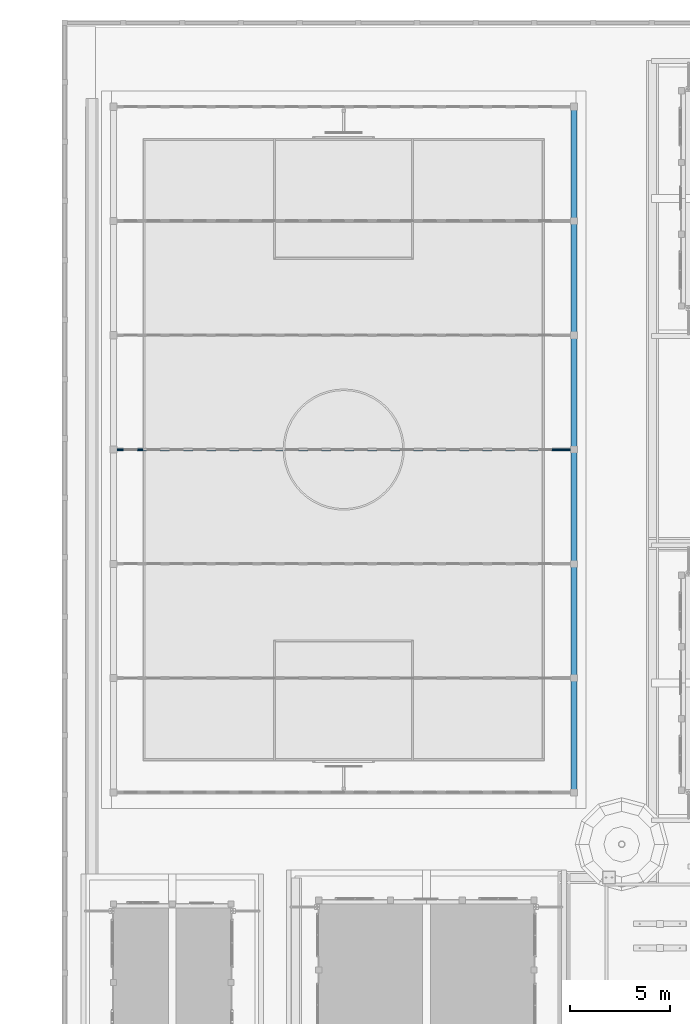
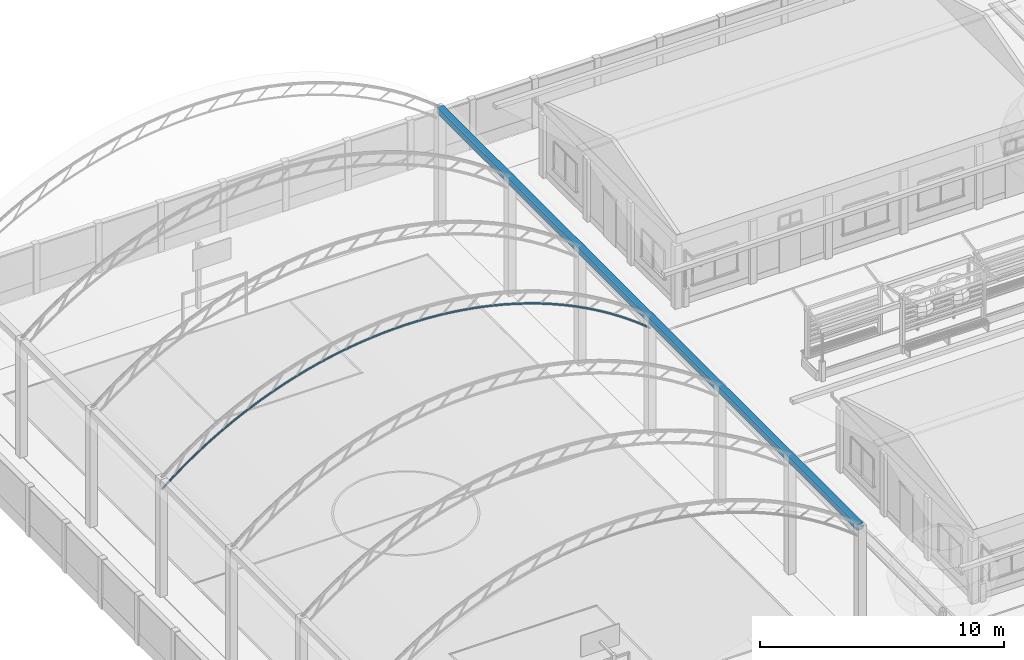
# One storey, part 26 of 177: 2 beams.
"""IFC4 building model written with IfcOpenShell, lengths in metres."""

import ifcopenshell
import ifcopenshell.guid

model = None  # the IFC model being written
_history = None  # IfcOwnerHistory: only IFC2X3 demands one
_inside = {}  # id of a spatial element -> (the spatial element, [elements in it])
_under = {}  # id of a project, library or spatial element -> (it, [spatial elements below it])
_declared = {}  # id of a project -> (the project, [libraries it declares])
_typed = {}  # id of a type object -> (the type object, [elements of that type])
_made_of = {}  # id of a material, layer set ... -> (it, [elements and type objects made of it])


def new_model(schema):
    """Start an empty IFC model of exactly this schema.

    Asked for "IFC4X3", IfcOpenShell would pick the latest addendum, in which some entities
    have other attributes; the version numbers below select the first issue.
    IFC2X3 requires an IfcOwnerHistory on every rooted entity: one is made here for all.
    """
    global model, _history
    if schema == "IFC4X3":
        model = ifcopenshell.file(schema_version=(4, 3, 0, 0))
    else:
        model = ifcopenshell.file(schema=schema)
    _inside.clear()
    _under.clear()
    _declared.clear()
    _typed.clear()
    _made_of.clear()
    _history = None
    if model.schema == "IFC2X3":
        org = make("IfcOrganization", Name="unknown")
        user = make(
            "IfcPersonAndOrganization",
            ThePerson=make("IfcPerson", FamilyName="unknown"),
            TheOrganization=org,
        )
        app = make(
            "IfcApplication",
            ApplicationDeveloper=org,
            Version="unknown",
            ApplicationFullName="unknown",
            ApplicationIdentifier="unknown",
        )
        _history = make(
            "IfcOwnerHistory",
            OwningUser=user,
            OwningApplication=app,
            ChangeAction="ADDED",
            CreationDate=0,
        )
    return model


def make(cls, **values):
    """One entity of the class cls with the attributes given. An attribute that is None is left unset."""
    return model.create_entity(
        cls, **{name: value for name, value in values.items() if value is not None}
    )


def rooted(cls, **values):
    """An entity with a GlobalId (a new one), such as an element, a storey or a relation."""
    return make(cls, GlobalId=ifcopenshell.guid.new(), OwnerHistory=_history, **values)


def si_unit(unit_type, name, prefix=None):
    """IfcSIUnit, for example si_unit("LENGTHUNIT", "METRE", prefix="MILLI")."""
    return make("IfcSIUnit", UnitType=unit_type, Prefix=prefix, Name=name)


def assignment(units):
    """IfcUnitAssignment: the units of a project."""
    return None if units is None else make("IfcUnitAssignment", Units=units)


def point(xyz):
    """IfcCartesianPoint."""
    return None if xyz is None else make("IfcCartesianPoint", Coordinates=xyz)


def direction(xyz):
    """IfcDirection."""
    return None if xyz is None else make("IfcDirection", DirectionRatios=xyz)


def frame(location, z_axis=None, x_axis=None):
    """IfcAxis2Placement3D, a coordinate frame: its origin and axes. An axis left out is left unset."""
    return make(
        "IfcAxis2Placement3D",
        Location=point(location),
        Axis=direction(z_axis),
        RefDirection=direction(x_axis),
    )


def origin():
    """The frame at (0, 0, 0) with its axes left unset."""
    return frame((0.0, 0.0, 0.0))


def origin_with_axes():
    """The frame at (0, 0, 0) with the z axis (0, 0, 1) and the x axis (1, 0, 0) written out."""
    return frame((0.0, 0.0, 0.0), z_axis=(0.0, 0.0, 1.0), x_axis=(1.0, 0.0, 0.0))


def place(relative_to, where):
    """IfcLocalPlacement: puts the frame where relative to a parent placement (None: the world)."""
    return make(
        "IfcLocalPlacement", PlacementRelTo=relative_to, RelativePlacement=where
    )


def context(
    kind, dimensions, precision=None, world=None, true_north=None, identifier=None
):
    """IfcGeometricRepresentationContext, for example the 3D "Model" context."""
    return make(
        "IfcGeometricRepresentationContext",
        ContextIdentifier=identifier,
        ContextType=kind,
        CoordinateSpaceDimension=dimensions,
        Precision=precision,
        WorldCoordinateSystem=world,
        TrueNorth=true_north,
    )


def subcontext(parent, identifier, kind, view, scale=None):
    """IfcGeometricRepresentationSubContext, for example "Body" below "Model"."""
    return make(
        "IfcGeometricRepresentationSubContext",
        ContextIdentifier=identifier,
        ContextType=kind,
        ParentContext=parent,
        TargetScale=scale,
        TargetView=view,
    )


def project(units=None, contexts=None):
    """IfcProject with its units and contexts."""
    return rooted(
        "IfcProject",
        Name="project",
        RepresentationContexts=contexts,
        UnitsInContext=assignment(units),
    )


def spatial(cls, under=None, at=None, **own):
    """A site, building, storey or space (cls), placed at a placement, below another one or the project."""
    s = rooted(cls, ObjectPlacement=at, **own)
    if under is not None:
        _under.setdefault(under.id(), (under, []))[1].append(s)
    return s


def point_list(points):
    """IfcCartesianPointList2D or 3D."""
    cls = (
        "IfcCartesianPointList2D" if len(points[0]) == 2 else "IfcCartesianPointList3D"
    )
    return make(cls, CoordList=points)


def triangles(points, corners, closed=None, point_numbers=None):
    """IfcTriangulatedFaceSet: each triangle names its three corners, points numbered from 1."""
    return make(
        "IfcTriangulatedFaceSet",
        Coordinates=point_list(points),
        Closed=closed,
        CoordIndex=corners,
        PnIndex=point_numbers,
    )


def shape(context_of_items, identifier, shape_type, items):
    """IfcShapeRepresentation: the items that make up one representation, for example the "Body"."""
    return make(
        "IfcShapeRepresentation",
        ContextOfItems=context_of_items,
        RepresentationIdentifier=identifier,
        RepresentationType=shape_type,
        Items=items,
    )


def made_of(thing, what):
    """Note that an element or type object is made of a material, layer set ...; save() writes the relation."""
    if what is not None:
        _made_of.setdefault(what.id(), (what, []))[1].append(thing)
    return thing


def element(
    cls,
    number,
    at=None,
    inside=None,
    cuts=None,
    type_object=None,
    material=None,
    context=None,
    identifier="Body",
    shape_type=None,
    held_by="IfcProductDefinitionShape",
    body=None,
    shapes=None,
    **own,
):
    """One element of the class cls, such as IfcWall. Its Tag is "e" and its number.

    at: its placement. inside: the storey or other place that contains it. cuts: it is an
    opening in that element (IfcRelVoidsElement). A single representation is given by context,
    identifier, shape_type and body (its items); several are given by shapes. held_by: the class
    of the entity that holds the representations. save() writes the other relations.
    """
    e = rooted(cls, Tag="e%d" % number, ObjectPlacement=at, **own)
    if body is not None:
        shapes = [shape(context, identifier, shape_type, body)]
    if shapes is not None:
        e.Representation = make(held_by, Representations=shapes)
    if inside is not None:
        _inside.setdefault(inside.id(), (inside, []))[1].append(e)
    if cuts is not None:
        rooted(
            "IfcRelVoidsElement", RelatingBuildingElement=cuts, RelatedOpeningElement=e
        )
    if type_object is not None:
        _typed.setdefault(type_object.id(), (type_object, []))[1].append(e)
    return made_of(e, material)


def aggregate(whole, parts):
    """IfcRelAggregates: a whole, such as a stair, and the parts it consists of."""
    return rooted("IfcRelAggregates", RelatingObject=whole, RelatedObjects=parts)


def save(model, path):
    """Write the relations noted so far, then the file.

    IfcRelAggregates (storeys below a building ...), IfcRelContainedInSpatialStructure (elements
    in a storey), IfcRelDefinesByType, IfcRelAssociatesMaterial and IfcRelDeclares: one each for
    every whole, place, type object, material and project.
    """
    for whole, parts in _under.values():
        aggregate(whole, parts)
    for where, things in _inside.values():
        rooted(
            "IfcRelContainedInSpatialStructure",
            RelatedElements=things,
            RelatingStructure=where,
        )
    for kind, things in _typed.values():
        rooted("IfcRelDefinesByType", RelatedObjects=things, RelatingType=kind)
    for what, things in _made_of.values():
        rooted("IfcRelAssociatesMaterial", RelatedObjects=things, RelatingMaterial=what)
    for by, libraries in _declared.values():
        rooted("IfcRelDeclares", RelatingContext=by, RelatedDefinitions=libraries)
    model.write(path)


model = new_model("IFC4")

# Units and contexts
model_context = context("Model", 3, precision=1e-05, world=origin_with_axes())
body_context = subcontext(model_context, "Body", "Model", "MODEL_VIEW")
ifc_project = project(units=[si_unit("LENGTHUNIT", "METRE"), si_unit("AREAUNIT", "SQUARE_METRE"), si_unit("VOLUMEUNIT", "CUBIC_METRE"), si_unit("PLANEANGLEUNIT", "RADIAN")], contexts=[model_context])

# Site, building, storey
site_placement = place(None, origin_with_axes())
site = spatial("IfcSite", under=ifc_project, at=site_placement, Name="Predio Los Mangos - Morales, San Martín", CompositionType="ELEMENT")
building_placement = place(site_placement, origin())
building = spatial("IfcBuilding", under=site, at=building_placement, Name="Hogar de Refugio Temporal", CompositionType="ELEMENT")
storey_placement = place(building_placement, origin())
storey = spatial("IfcBuildingStorey", under=building, at=storey_placement, Name="NIVEL 1 (NPT +0.00)", CompositionType="ELEMENT", Elevation=0.0)

# Beams
beam_1_placement = place(storey_placement, origin())
element("IfcBeam", 1, at=beam_1_placement, inside=storey, Name="arco", ObjectType="Viga", PredefinedType="BEAM", context=body_context, shape_type="Tessellation", body=[
    triangles([(3.4843, 109.8433, 5.3695), (3.4729, 109.825, 5.3838), (3.4687, 109.8, 5.389), (3.4729, 109.775, 5.3838), (3.4843, 109.7567, 5.3695), (3.5, 109.75, 5.35), (3.5157, 109.7567, 5.3305), (3.5271, 109.775, 5.3162), (3.5313, 109.8, 5.311), (3.5271, 109.825, 5.3162), (3.5157, 109.8433, 5.3305), (3.5, 109.85, 5.35), (4.0622, 109.8433, 5.8339), (4.0511, 109.825, 5.8484), (4.047, 109.8, 5.8537), (4.0511, 109.775, 5.8484), (4.0622, 109.7567, 5.8339), (4.0775, 109.75, 5.8141), (4.0928, 109.7567, 5.7943), (4.1039, 109.775, 5.7798), (4.108, 109.8, 5.7745), (4.1039, 109.825, 5.7798), (4.0928, 109.8433, 5.7943), (4.0775, 109.85, 5.8141), (4.6405, 109.8433, 6.2612), (4.63, 109.825, 6.2761), (4.6261, 109.8, 6.2816), (4.63, 109.775, 6.2761), (4.6405, 109.7567, 6.2612), (4.655, 109.75, 6.2408), (4.6695, 109.7567, 6.2204), (4.68, 109.775, 6.2055), (4.6839, 109.8, 6.2), (4.68, 109.825, 6.2055), (4.6695, 109.8433, 6.2204), (4.655, 109.85, 6.2408), (5.2188, 109.8433, 6.6543), (5.2088, 109.825, 6.6696), (5.2052, 109.8, 6.6752), (5.2088, 109.775, 6.6696), (5.2188, 109.7567, 6.6543), (5.2325, 109.75, 6.6333), (5.2462, 109.7567, 6.6124), (5.2562, 109.775, 6.5971), (5.2598, 109.8, 6.5915), (5.2562, 109.825, 6.5971), (5.2462, 109.8433, 6.6124), (5.2325, 109.85, 6.6333), (5.7971, 109.8433, 7.0157), (5.7877, 109.825, 7.0314), (5.7843, 109.8, 7.0372), (5.7877, 109.775, 7.0314), (5.7971, 109.7567, 7.0157), (5.81, 109.75, 6.9943), (5.8229, 109.7567, 6.9729), (5.8323, 109.775, 6.9572), (5.8357, 109.8, 6.9514), (5.8323, 109.825, 6.9572), (5.8229, 109.8433, 6.9729), (5.81, 109.85, 6.9943), (6.3755, 109.8433, 7.3478), (6.3666, 109.825, 7.3638), (6.3634, 109.8, 7.3697), (6.3666, 109.775, 7.3638), (6.3755, 109.7567, 7.3478), (6.3875, 109.75, 7.3259), (6.3995, 109.7567, 7.304), (6.4084, 109.775, 7.2879), (6.4116, 109.8, 7.282), (6.4084, 109.825, 7.2879), (6.3995, 109.8433, 7.304), (6.3875, 109.85, 7.3259), (6.9538, 109.8433, 7.6522), (6.9455, 109.825, 7.6685), (6.9425, 109.8, 7.6745), (6.9455, 109.775, 7.6685), (6.9538, 109.7567, 7.6522), (6.965, 109.75, 7.6298), (6.9762, 109.7567, 7.6075), (6.9845, 109.775, 7.5912), (6.9875, 109.8, 7.5852), (6.9845, 109.825, 7.5912), (6.9762, 109.8433, 7.6075), (6.965, 109.85, 7.6298), (7.5321, 109.8433, 7.9305), (7.5244, 109.825, 7.9471), (7.5216, 109.8, 7.9532), (7.5244, 109.775, 7.9471), (7.5321, 109.7567, 7.9305), (7.5425, 109.75, 7.9077), (7.5529, 109.7567, 7.885), (7.5606, 109.775, 7.8684), (7.5634, 109.8, 7.8623), (7.5606, 109.825, 7.8684), (7.5529, 109.8433, 7.885), (7.5425, 109.85, 7.9077), (8.1104, 109.8433, 8.184), (8.1033, 109.825, 8.2009), (8.1007, 109.8, 8.2071), (8.1033, 109.775, 8.2009), (8.1104, 109.7567, 8.184), (8.12, 109.75, 8.1609), (8.1296, 109.7567, 8.1379), (8.1367, 109.775, 8.121), (8.1393, 109.8, 8.1148), (8.1367, 109.825, 8.121), (8.1296, 109.8433, 8.1379), (8.12, 109.85, 8.1609), (8.6887, 109.8433, 8.4139), (8.6822, 109.825, 8.431), (8.6798, 109.8, 8.4373), (8.6822, 109.775, 8.431), (8.6887, 109.7567, 8.4139), (8.6975, 109.75, 8.3905), (8.7063, 109.7567, 8.3671), (8.7128, 109.775, 8.35), (8.7152, 109.8, 8.3437), (8.7128, 109.825, 8.35), (8.7063, 109.8433, 8.3671), (8.6975, 109.85, 8.3905), (9.267, 109.8433, 8.6211), (9.2611, 109.825, 8.6384), (9.2589, 109.8, 8.6447), (9.2611, 109.775, 8.6384), (9.267, 109.7567, 8.6211), (9.275, 109.75, 8.5974), (9.283, 109.7567, 8.5737), (9.2889, 109.775, 8.5564), (9.2911, 109.8, 8.55), (9.2889, 109.825, 8.5564), (9.283, 109.8433, 8.5737), (9.275, 109.85, 8.5974), (9.8453, 109.8433, 8.8064), (9.84, 109.825, 8.8239), (9.838, 109.8, 8.8303), (9.84, 109.775, 8.8239), (9.8453, 109.7567, 8.8064), (9.8525, 109.75, 8.7824), (9.8597, 109.7567, 8.7585), (9.865, 109.775, 8.741), (9.867, 109.8, 8.7346), (9.865, 109.825, 8.741), (9.8597, 109.8433, 8.7585), (9.8525, 109.85, 8.7824), (10.4236, 109.8433, 8.9705), (10.4189, 109.825, 8.9882), (10.4172, 109.8, 8.9947), (10.4189, 109.775, 8.9882), (10.4236, 109.7567, 8.9705), (10.43, 109.75, 8.9463), (10.4364, 109.7567, 8.9222), (10.4411, 109.775, 8.9045), (10.4429, 109.8, 8.898), (10.4411, 109.825, 8.9045), (10.4364, 109.8433, 8.9222), (10.43, 109.85, 8.9463), (11.0019, 109.8433, 9.1141), (10.9978, 109.825, 9.1319), (10.9963, 109.8, 9.1384), (10.9978, 109.775, 9.1319), (11.0019, 109.7567, 9.1141), (11.0075, 109.75, 9.0897), (11.0131, 109.7567, 9.0653), (11.0172, 109.775, 9.0475), (11.0187, 109.8, 9.041), (11.0172, 109.825, 9.0475), (11.0131, 109.8433, 9.0653), (11.0075, 109.85, 9.0897), (11.5802, 109.8433, 9.2375), (11.5767, 109.825, 9.2555), (11.5754, 109.8, 9.2621), (11.5767, 109.775, 9.2555), (11.5802, 109.7567, 9.2375), (11.585, 109.75, 9.213), (11.5898, 109.7567, 9.1885), (11.5933, 109.775, 9.1705), (11.5946, 109.8, 9.1639), (11.5933, 109.825, 9.1705), (11.5898, 109.8433, 9.1885), (11.585, 109.85, 9.213), (12.1585, 109.8433, 9.3413), (12.1555, 109.825, 9.3594), (12.1545, 109.8, 9.366), (12.1555, 109.775, 9.3594), (12.1585, 109.7567, 9.3413), (12.1625, 109.75, 9.3166), (12.1665, 109.7567, 9.292), (12.1695, 109.775, 9.2739), (12.1705, 109.8, 9.2673), (12.1695, 109.825, 9.2739), (12.1665, 109.8433, 9.292), (12.1625, 109.85, 9.3166), (12.7368, 109.8433, 9.4258), (12.7344, 109.825, 9.4439), (12.7336, 109.8, 9.4506), (12.7344, 109.775, 9.4439), (12.7368, 109.7567, 9.4258), (12.74, 109.75, 9.401), (12.7432, 109.7567, 9.3762), (12.7456, 109.775, 9.3581), (12.7464, 109.8, 9.3514), (12.7456, 109.825, 9.3581), (12.7432, 109.8433, 9.3762), (12.74, 109.85, 9.401), (13.3151, 109.8433, 9.4912), (13.3133, 109.825, 9.5094), (13.3127, 109.8, 9.5161), (13.3133, 109.775, 9.5094), (13.3151, 109.7567, 9.4912), (13.3175, 109.75, 9.4663), (13.3199, 109.7567, 9.4415), (13.3217, 109.775, 9.4232), (13.3223, 109.8, 9.4166), (13.3217, 109.825, 9.4232), (13.3199, 109.8433, 9.4415), (13.3175, 109.85, 9.4663), (13.8934, 109.8433, 9.5378), (13.8922, 109.825, 9.5561), (13.8918, 109.8, 9.5628), (13.8922, 109.775, 9.5561), (13.8934, 109.7567, 9.5378), (13.895, 109.75, 9.5129), (13.8966, 109.7567, 9.4879), (13.8978, 109.775, 9.4697), (13.8982, 109.8, 9.463), (13.8978, 109.825, 9.4697), (13.8966, 109.8433, 9.4879), (13.895, 109.85, 9.5129), (14.4717, 109.8433, 9.5657), (14.4711, 109.825, 9.584), (14.4709, 109.8, 9.5907), (14.4711, 109.775, 9.584), (14.4717, 109.7567, 9.5657), (14.4725, 109.75, 9.5407), (14.4733, 109.7567, 9.5157), (14.4739, 109.775, 9.4974), (14.4741, 109.8, 9.4907), (14.4739, 109.825, 9.4974), (14.4733, 109.8433, 9.5157), (14.4725, 109.85, 9.5407), (15.05, 109.8433, 9.575), (15.05, 109.825, 9.5933), (15.05, 109.8, 9.6), (15.05, 109.775, 9.5933), (15.05, 109.7567, 9.575), (15.05, 109.75, 9.55), (15.05, 109.7567, 9.525), (15.05, 109.775, 9.5067), (15.05, 109.8, 9.5), (15.05, 109.825, 9.5067), (15.05, 109.8433, 9.525), (15.05, 109.85, 9.55), (15.6283, 109.8433, 9.5657), (15.6289, 109.825, 9.584), (15.6291, 109.8, 9.5907), (15.6289, 109.775, 9.584), (15.6283, 109.7567, 9.5657), (15.6275, 109.75, 9.5407), (15.6267, 109.7567, 9.5157), (15.6261, 109.775, 9.4974), (15.6259, 109.8, 9.4907), (15.6261, 109.825, 9.4974), (15.6267, 109.8433, 9.5157), (15.6275, 109.85, 9.5407), (16.2066, 109.8433, 9.5378), (16.2078, 109.825, 9.5561), (16.2082, 109.8, 9.5628), (16.2078, 109.775, 9.5561), (16.2066, 109.7567, 9.5378), (16.205, 109.75, 9.5129), (16.2034, 109.7567, 9.4879), (16.2022, 109.775, 9.4697), (16.2018, 109.8, 9.463), (16.2022, 109.825, 9.4697), (16.2034, 109.8433, 9.4879), (16.205, 109.85, 9.5129), (16.7849, 109.8433, 9.4912), (16.7867, 109.825, 9.5094), (16.7873, 109.8, 9.5161), (16.7867, 109.775, 9.5094), (16.7849, 109.7567, 9.4912), (16.7825, 109.75, 9.4663), (16.7801, 109.7567, 9.4415), (16.7783, 109.775, 9.4232), (16.7777, 109.8, 9.4166), (16.7783, 109.825, 9.4232), (16.7801, 109.8433, 9.4415), (16.7825, 109.85, 9.4663), (17.3632, 109.8433, 9.4258), (17.3656, 109.825, 9.4439), (17.3664, 109.8, 9.4506), (17.3656, 109.775, 9.4439), (17.3632, 109.7567, 9.4258), (17.36, 109.75, 9.401), (17.3568, 109.7567, 9.3762), (17.3544, 109.775, 9.3581), (17.3536, 109.8, 9.3514), (17.3544, 109.825, 9.3581), (17.3568, 109.8433, 9.3762), (17.36, 109.85, 9.401), (17.9415, 109.8433, 9.3413), (17.9445, 109.825, 9.3594), (17.9455, 109.8, 9.366), (17.9445, 109.775, 9.3594), (17.9415, 109.7567, 9.3413), (17.9375, 109.75, 9.3166), (17.9335, 109.7567, 9.292), (17.9305, 109.775, 9.2739), (17.9295, 109.8, 9.2673), (17.9305, 109.825, 9.2739), (17.9335, 109.8433, 9.292), (17.9375, 109.85, 9.3166), (18.5198, 109.8433, 9.2375), (18.5233, 109.825, 9.2555), (18.5246, 109.8, 9.2621), (18.5233, 109.775, 9.2555), (18.5198, 109.7567, 9.2375), (18.515, 109.75, 9.213), (18.5102, 109.7567, 9.1885), (18.5067, 109.775, 9.1705), (18.5054, 109.8, 9.1639), (18.5067, 109.825, 9.1705), (18.5102, 109.8433, 9.1885), (18.515, 109.85, 9.213), (19.0981, 109.8433, 9.1141), (19.1022, 109.825, 9.1319), (19.1037, 109.8, 9.1384), (19.1022, 109.775, 9.1319), (19.0981, 109.7567, 9.1141), (19.0925, 109.75, 9.0897), (19.0869, 109.7567, 9.0653), (19.0828, 109.775, 9.0475), (19.0813, 109.8, 9.041), (19.0828, 109.825, 9.0475), (19.0869, 109.8433, 9.0653), (19.0925, 109.85, 9.0897), (19.6764, 109.8433, 8.9705), (19.6811, 109.825, 8.9882), (19.6828, 109.8, 8.9947), (19.6811, 109.775, 8.9882), (19.6764, 109.7567, 8.9705), (19.67, 109.75, 8.9463), (19.6636, 109.7567, 8.9222), (19.6589, 109.775, 8.9045), (19.6572, 109.8, 8.898), (19.6589, 109.825, 8.9045), (19.6636, 109.8433, 8.9222), (19.67, 109.85, 8.9463), (20.2547, 109.8433, 8.8064), (20.26, 109.825, 8.8239), (20.262, 109.8, 8.8303), (20.26, 109.775, 8.8239), (20.2547, 109.7567, 8.8064), (20.2475, 109.75, 8.7824), (20.2403, 109.7567, 8.7585), (20.235, 109.775, 8.741), (20.233, 109.8, 8.7346), (20.235, 109.825, 8.741), (20.2403, 109.8433, 8.7585), (20.2475, 109.85, 8.7824), (20.833, 109.8433, 8.6211), (20.8389, 109.825, 8.6384), (20.8411, 109.8, 8.6447), (20.8389, 109.775, 8.6384), (20.833, 109.7567, 8.6211), (20.825, 109.75, 8.5974), (20.817, 109.7567, 8.5737), (20.8111, 109.775, 8.5564), (20.8089, 109.8, 8.55), (20.8111, 109.825, 8.5564), (20.817, 109.8433, 8.5737), (20.825, 109.85, 8.5974), (21.4113, 109.8433, 8.4139), (21.4178, 109.825, 8.431), (21.4202, 109.8, 8.4373), (21.4178, 109.775, 8.431), (21.4113, 109.7567, 8.4139), (21.4025, 109.75, 8.3905), (21.3937, 109.7567, 8.3671), (21.3872, 109.775, 8.35), (21.3848, 109.8, 8.3437), (21.3872, 109.825, 8.35), (21.3937, 109.8433, 8.3671), (21.4025, 109.85, 8.3905), (21.9896, 109.8433, 8.184), (21.9967, 109.825, 8.2009), (21.9993, 109.8, 8.2071), (21.9967, 109.775, 8.2009), (21.9896, 109.7567, 8.184), (21.98, 109.75, 8.1609), (21.9704, 109.7567, 8.1379), (21.9633, 109.775, 8.121), (21.9607, 109.8, 8.1148), (21.9633, 109.825, 8.121), (21.9704, 109.8433, 8.1379), (21.98, 109.85, 8.1609), (22.5679, 109.8433, 7.9305), (22.5756, 109.825, 7.9471), (22.5784, 109.8, 7.9532), (22.5756, 109.775, 7.9471), (22.5679, 109.7567, 7.9305), (22.5575, 109.75, 7.9077), (22.5471, 109.7567, 7.885), (22.5394, 109.775, 7.8684), (22.5366, 109.8, 7.8623), (22.5394, 109.825, 7.8684), (22.5471, 109.8433, 7.885), (22.5575, 109.85, 7.9077), (23.1462, 109.8433, 7.6522), (23.1545, 109.825, 7.6685), (23.1575, 109.8, 7.6745), (23.1545, 109.775, 7.6685), (23.1462, 109.7567, 7.6522), (23.135, 109.75, 7.6298), (23.1238, 109.7567, 7.6075), (23.1155, 109.775, 7.5912), (23.1125, 109.8, 7.5852), (23.1155, 109.825, 7.5912), (23.1238, 109.8433, 7.6075), (23.135, 109.85, 7.6298), (23.7245, 109.8433, 7.3478), (23.7334, 109.825, 7.3638), (23.7366, 109.8, 7.3697), (23.7334, 109.775, 7.3638), (23.7245, 109.7567, 7.3478), (23.7125, 109.75, 7.3259), (23.7005, 109.7567, 7.304), (23.6916, 109.775, 7.2879), (23.6884, 109.8, 7.282), (23.6916, 109.825, 7.2879), (23.7005, 109.8433, 7.304), (23.7125, 109.85, 7.3259), (24.3029, 109.8433, 7.0157), (24.3123, 109.825, 7.0314), (24.3157, 109.8, 7.0372), (24.3123, 109.775, 7.0314), (24.3029, 109.7567, 7.0157), (24.29, 109.75, 6.9943), (24.2771, 109.7567, 6.9729), (24.2677, 109.775, 6.9572), (24.2643, 109.8, 6.9514), (24.2677, 109.825, 6.9572), (24.2771, 109.8433, 6.9729), (24.29, 109.85, 6.9943), (24.8812, 109.8433, 6.6543), (24.8912, 109.825, 6.6696), (24.8948, 109.8, 6.6752), (24.8912, 109.775, 6.6696), (24.8812, 109.7567, 6.6543), (24.8675, 109.75, 6.6333), (24.8538, 109.7567, 6.6124), (24.8438, 109.775, 6.5971), (24.8402, 109.8, 6.5915), (24.8438, 109.825, 6.5971), (24.8538, 109.8433, 6.6124), (24.8675, 109.85, 6.6333), (25.4595, 109.8433, 6.2612), (25.47, 109.825, 6.2761), (25.4739, 109.8, 6.2816), (25.47, 109.775, 6.2761), (25.4595, 109.7567, 6.2612), (25.445, 109.75, 6.2408), (25.4305, 109.7567, 6.2204), (25.42, 109.775, 6.2055), (25.4161, 109.8, 6.2), (25.42, 109.825, 6.2055), (25.4305, 109.8433, 6.2204), (25.445, 109.85, 6.2408), (26.0378, 109.8433, 5.8339), (26.0489, 109.825, 5.8484), (26.053, 109.8, 5.8537), (26.0489, 109.775, 5.8484), (26.0378, 109.7567, 5.8339), (26.0225, 109.75, 5.8141), (26.0072, 109.7567, 5.7943), (25.9961, 109.775, 5.7798), (25.992, 109.8, 5.7745), (25.9961, 109.825, 5.7798), (26.0072, 109.8433, 5.7943), (26.0225, 109.85, 5.8141), (26.6157, 109.8433, 5.3695), (26.6271, 109.825, 5.3838), (26.6313, 109.8, 5.389), (26.6271, 109.775, 5.3838), (26.6157, 109.7567, 5.3695), (26.6, 109.75, 5.35), (26.5843, 109.7567, 5.3305), (26.5729, 109.775, 5.3162), (26.5687, 109.8, 5.311), (26.5729, 109.825, 5.3162), (26.5843, 109.8433, 5.3305), (26.6, 109.85, 5.35)], [[1, 13, 24], [1, 24, 12], [2, 14, 13], [2, 13, 1], [3, 15, 14], [3, 14, 2], [4, 16, 15], [4, 15, 3], [5, 17, 16], [5, 16, 4], [6, 18, 17], [6, 17, 5], [7, 19, 18], [7, 18, 6], [8, 20, 19], [8, 19, 7], [9, 21, 20], [9, 20, 8], [10, 22, 21], [10, 21, 9], [11, 23, 22], [11, 22, 10], [12, 24, 23], [12, 23, 11], [13, 25, 36], [13, 36, 24], [14, 26, 25], [14, 25, 13], [15, 27, 26], [15, 26, 14], [16, 28, 27], [16, 27, 15], [17, 29, 28], [17, 28, 16], [18, 30, 29], [18, 29, 17], [19, 31, 30], [19, 30, 18], [20, 32, 31], [20, 31, 19], [21, 33, 32], [21, 32, 20], [22, 34, 33], [22, 33, 21], [23, 35, 34], [23, 34, 22], [24, 36, 35], [24, 35, 23], [25, 37, 48], [25, 48, 36], [26, 38, 37], [26, 37, 25], [27, 39, 38], [27, 38, 26], [28, 40, 39], [28, 39, 27], [29, 41, 40], [29, 40, 28], [30, 42, 41], [30, 41, 29], [31, 43, 42], [31, 42, 30], [32, 44, 43], [32, 43, 31], [33, 45, 44], [33, 44, 32], [34, 46, 45], [34, 45, 33], [35, 47, 46], [35, 46, 34], [36, 48, 47], [36, 47, 35], [37, 49, 60], [37, 60, 48], [38, 50, 49], [38, 49, 37], [39, 51, 50], [39, 50, 38], [40, 52, 51], [40, 51, 39], [41, 53, 52], [41, 52, 40], [42, 54, 53], [42, 53, 41], [43, 55, 54], [43, 54, 42], [44, 56, 55], [44, 55, 43], [45, 57, 56], [45, 56, 44], [46, 58, 57], [46, 57, 45], [47, 59, 58], [47, 58, 46], [48, 60, 59], [48, 59, 47], [49, 61, 72], [49, 72, 60], [50, 62, 61], [50, 61, 49], [51, 63, 62], [51, 62, 50], [52, 64, 63], [52, 63, 51], [53, 65, 64], [53, 64, 52], [54, 66, 65], [54, 65, 53], [55, 67, 66], [55, 66, 54], [56, 68, 67], [56, 67, 55], [57, 69, 68], [57, 68, 56], [58, 70, 69], [58, 69, 57], [59, 71, 70], [59, 70, 58], [60, 72, 71], [60, 71, 59], [61, 73, 84], [61, 84, 72], [62, 74, 73], [62, 73, 61], [63, 75, 74], [63, 74, 62], [64, 76, 75], [64, 75, 63], [65, 77, 76], [65, 76, 64], [66, 78, 77], [66, 77, 65], [67, 79, 78], [67, 78, 66], [68, 80, 79], [68, 79, 67], [69, 81, 80], [69, 80, 68], [70, 82, 81], [70, 81, 69], [71, 83, 82], [71, 82, 70], [72, 84, 83], [72, 83, 71], [73, 85, 96], [73, 96, 84], [74, 86, 85], [74, 85, 73], [75, 87, 86], [75, 86, 74], [76, 88, 87], [76, 87, 75], [77, 89, 88], [77, 88, 76], [78, 90, 89], [78, 89, 77], [79, 91, 90], [79, 90, 78], [80, 92, 91], [80, 91, 79], [81, 93, 92], [81, 92, 80], [82, 94, 93], [82, 93, 81], [83, 95, 94], [83, 94, 82], [84, 96, 95], [84, 95, 83], [85, 97, 108], [85, 108, 96], [86, 98, 97], [86, 97, 85], [87, 99, 98], [87, 98, 86], [88, 100, 99], [88, 99, 87], [89, 101, 100], [89, 100, 88], [90, 102, 101], [90, 101, 89], [91, 103, 102], [91, 102, 90], [92, 104, 103], [92, 103, 91], [93, 105, 104], [93, 104, 92], [94, 106, 105], [94, 105, 93], [95, 107, 106], [95, 106, 94], [96, 108, 107], [96, 107, 95], [97, 109, 120], [97, 120, 108], [98, 110, 109], [98, 109, 97], [99, 111, 110], [99, 110, 98], [100, 112, 111], [100, 111, 99], [101, 113, 112], [101, 112, 100], [102, 114, 113], [102, 113, 101], [103, 115, 114], [103, 114, 102], [104, 116, 115], [104, 115, 103], [105, 117, 116], [105, 116, 104], [106, 118, 117], [106, 117, 105], [107, 119, 118], [107, 118, 106], [108, 120, 119], [108, 119, 107], [109, 121, 132], [109, 132, 120], [110, 122, 121], [110, 121, 109], [111, 123, 122], [111, 122, 110], [112, 124, 123], [112, 123, 111], [113, 125, 124], [113, 124, 112], [114, 126, 125], [114, 125, 113], [115, 127, 126], [115, 126, 114], [116, 128, 127], [116, 127, 115], [117, 129, 128], [117, 128, 116], [118, 130, 129], [118, 129, 117], [119, 131, 130], [119, 130, 118], [120, 132, 131], [120, 131, 119], [121, 133, 144], [121, 144, 132], [122, 134, 133], [122, 133, 121], [123, 135, 134], [123, 134, 122], [124, 136, 135], [124, 135, 123], [125, 137, 136], [125, 136, 124], [126, 138, 137], [126, 137, 125], [127, 139, 138], [127, 138, 126], [128, 140, 139], [128, 139, 127], [129, 141, 140], [129, 140, 128], [130, 142, 141], [130, 141, 129], [131, 143, 142], [131, 142, 130], [132, 144, 143], [132, 143, 131], [133, 145, 156], [133, 156, 144], [134, 146, 145], [134, 145, 133], [135, 147, 146], [135, 146, 134], [136, 148, 147], [136, 147, 135], [137, 149, 148], [137, 148, 136], [138, 150, 149], [138, 149, 137], [139, 151, 150], [139, 150, 138], [140, 152, 151], [140, 151, 139], [141, 153, 152], [141, 152, 140], [142, 154, 153], [142, 153, 141], [143, 155, 154], [143, 154, 142], [144, 156, 155], [144, 155, 143], [145, 157, 168], [145, 168, 156], [146, 158, 157], [146, 157, 145], [147, 159, 158], [147, 158, 146], [148, 160, 159], [148, 159, 147], [149, 161, 160], [149, 160, 148], [150, 162, 161], [150, 161, 149], [151, 163, 162], [151, 162, 150], [152, 164, 163], [152, 163, 151], [153, 165, 164], [153, 164, 152], [154, 166, 165], [154, 165, 153], [155, 167, 166], [155, 166, 154], [156, 168, 167], [156, 167, 155], [157, 169, 180], [157, 180, 168], [158, 170, 169], [158, 169, 157], [159, 171, 170], [159, 170, 158], [160, 172, 171], [160, 171, 159], [161, 173, 172], [161, 172, 160], [162, 174, 173], [162, 173, 161], [163, 175, 174], [163, 174, 162], [164, 176, 175], [164, 175, 163], [165, 177, 176], [165, 176, 164], [166, 178, 177], [166, 177, 165], [167, 179, 178], [167, 178, 166], [168, 180, 179], [168, 179, 167], [169, 181, 192], [169, 192, 180], [170, 182, 181], [170, 181, 169], [171, 183, 182], [171, 182, 170], [172, 184, 183], [172, 183, 171], [173, 185, 184], [173, 184, 172], [174, 186, 185], [174, 185, 173], [175, 187, 186], [175, 186, 174], [176, 188, 187], [176, 187, 175], [177, 189, 188], [177, 188, 176], [178, 190, 189], [178, 189, 177], [179, 191, 190], [179, 190, 178], [180, 192, 191], [180, 191, 179], [181, 193, 204], [181, 204, 192], [182, 194, 193], [182, 193, 181], [183, 195, 194], [183, 194, 182], [184, 196, 195], [184, 195, 183], [185, 197, 196], [185, 196, 184], [186, 198, 197], [186, 197, 185], [187, 199, 198], [187, 198, 186], [188, 200, 199], [188, 199, 187], [189, 201, 200], [189, 200, 188], [190, 202, 201], [190, 201, 189], [191, 203, 202], [191, 202, 190], [192, 204, 203], [192, 203, 191], [193, 205, 216], [193, 216, 204], [194, 206, 205], [194, 205, 193], [195, 207, 206], [195, 206, 194], [196, 208, 207], [196, 207, 195], [197, 209, 208], [197, 208, 196], [198, 210, 209], [198, 209, 197], [199, 211, 210], [199, 210, 198], [200, 212, 211], [200, 211, 199], [201, 213, 212], [201, 212, 200], [202, 214, 213], [202, 213, 201], [203, 215, 214], [203, 214, 202], [204, 216, 215], [204, 215, 203], [205, 217, 228], [205, 228, 216], [206, 218, 217], [206, 217, 205], [207, 219, 218], [207, 218, 206], [208, 220, 219], [208, 219, 207], [209, 221, 220], [209, 220, 208], [210, 222, 221], [210, 221, 209], [211, 223, 222], [211, 222, 210], [212, 224, 223], [212, 223, 211], [213, 225, 224], [213, 224, 212], [214, 226, 225], [214, 225, 213], [215, 227, 226], [215, 226, 214], [216, 228, 227], [216, 227, 215], [217, 229, 240], [217, 240, 228], [218, 230, 229], [218, 229, 217], [219, 231, 230], [219, 230, 218], [220, 232, 231], [220, 231, 219], [221, 233, 232], [221, 232, 220], [222, 234, 233], [222, 233, 221], [223, 235, 234], [223, 234, 222], [224, 236, 235], [224, 235, 223], [225, 237, 236], [225, 236, 224], [226, 238, 237], [226, 237, 225], [227, 239, 238], [227, 238, 226], [228, 240, 239], [228, 239, 227], [229, 241, 252], [229, 252, 240], [230, 242, 241], [230, 241, 229], [231, 243, 242], [231, 242, 230], [232, 244, 243], [232, 243, 231], [233, 245, 244], [233, 244, 232], [234, 246, 245], [234, 245, 233], [235, 247, 246], [235, 246, 234], [236, 248, 247], [236, 247, 235], [237, 249, 248], [237, 248, 236], [238, 250, 249], [238, 249, 237], [239, 251, 250], [239, 250, 238], [240, 252, 251], [240, 251, 239], [241, 253, 264], [241, 264, 252], [242, 254, 253], [242, 253, 241], [243, 255, 254], [243, 254, 242], [244, 256, 255], [244, 255, 243], [245, 257, 256], [245, 256, 244], [246, 258, 257], [246, 257, 245], [247, 259, 258], [247, 258, 246], [248, 260, 259], [248, 259, 247], [249, 261, 260], [249, 260, 248], [250, 262, 261], [250, 261, 249], [251, 263, 262], [251, 262, 250], [252, 264, 263], [252, 263, 251], [253, 265, 276], [253, 276, 264], [254, 266, 265], [254, 265, 253], [255, 267, 266], [255, 266, 254], [256, 268, 267], [256, 267, 255], [257, 269, 268], [257, 268, 256], [258, 270, 269], [258, 269, 257], [259, 271, 270], [259, 270, 258], [260, 272, 271], [260, 271, 259], [261, 273, 272], [261, 272, 260], [262, 274, 273], [262, 273, 261], [263, 275, 274], [263, 274, 262], [264, 276, 275], [264, 275, 263], [265, 277, 288], [265, 288, 276], [266, 278, 277], [266, 277, 265], [267, 279, 278], [267, 278, 266], [268, 280, 279], [268, 279, 267], [269, 281, 280], [269, 280, 268], [270, 282, 281], [270, 281, 269], [271, 283, 282], [271, 282, 270], [272, 284, 283], [272, 283, 271], [273, 285, 284], [273, 284, 272], [274, 286, 285], [274, 285, 273], [275, 287, 286], [275, 286, 274], [276, 288, 287], [276, 287, 275], [277, 289, 300], [277, 300, 288], [278, 290, 289], [278, 289, 277], [279, 291, 290], [279, 290, 278], [280, 292, 291], [280, 291, 279], [281, 293, 292], [281, 292, 280], [282, 294, 293], [282, 293, 281], [283, 295, 294], [283, 294, 282], [284, 296, 295], [284, 295, 283], [285, 297, 296], [285, 296, 284], [286, 298, 297], [286, 297, 285], [287, 299, 298], [287, 298, 286], [288, 300, 299], [288, 299, 287], [289, 301, 312], [289, 312, 300], [290, 302, 301], [290, 301, 289], [291, 303, 302], [291, 302, 290], [292, 304, 303], [292, 303, 291], [293, 305, 304], [293, 304, 292], [294, 306, 305], [294, 305, 293], [295, 307, 306], [295, 306, 294], [296, 308, 307], [296, 307, 295], [297, 309, 308], [297, 308, 296], [298, 310, 309], [298, 309, 297], [299, 311, 310], [299, 310, 298], [300, 312, 311], [300, 311, 299], [301, 313, 324], [301, 324, 312], [302, 314, 313], [302, 313, 301], [303, 315, 314], [303, 314, 302], [304, 316, 315], [304, 315, 303], [305, 317, 316], [305, 316, 304], [306, 318, 317], [306, 317, 305], [307, 319, 318], [307, 318, 306], [308, 320, 319], [308, 319, 307], [309, 321, 320], [309, 320, 308], [310, 322, 321], [310, 321, 309], [311, 323, 322], [311, 322, 310], [312, 324, 323], [312, 323, 311], [313, 325, 336], [313, 336, 324], [314, 326, 325], [314, 325, 313], [315, 327, 326], [315, 326, 314], [316, 328, 327], [316, 327, 315], [317, 329, 328], [317, 328, 316], [318, 330, 329], [318, 329, 317], [319, 331, 330], [319, 330, 318], [320, 332, 331], [320, 331, 319], [321, 333, 332], [321, 332, 320], [322, 334, 333], [322, 333, 321], [323, 335, 334], [323, 334, 322], [324, 336, 335], [324, 335, 323], [325, 337, 348], [325, 348, 336], [326, 338, 337], [326, 337, 325], [327, 339, 338], [327, 338, 326], [328, 340, 339], [328, 339, 327], [329, 341, 340], [329, 340, 328], [330, 342, 341], [330, 341, 329], [331, 343, 342], [331, 342, 330], [332, 344, 343], [332, 343, 331], [333, 345, 344], [333, 344, 332], [334, 346, 345], [334, 345, 333], [335, 347, 346], [335, 346, 334], [336, 348, 347], [336, 347, 335], [337, 349, 360], [337, 360, 348], [338, 350, 349], [338, 349, 337], [339, 351, 350], [339, 350, 338], [340, 352, 351], [340, 351, 339], [341, 353, 352], [341, 352, 340], [342, 354, 353], [342, 353, 341], [343, 355, 354], [343, 354, 342], [344, 356, 355], [344, 355, 343], [345, 357, 356], [345, 356, 344], [346, 358, 357], [346, 357, 345], [347, 359, 358], [347, 358, 346], [348, 360, 359], [348, 359, 347], [349, 361, 372], [349, 372, 360], [350, 362, 361], [350, 361, 349], [351, 363, 362], [351, 362, 350], [352, 364, 363], [352, 363, 351], [353, 365, 364], [353, 364, 352], [354, 366, 365], [354, 365, 353], [355, 367, 366], [355, 366, 354], [356, 368, 367], [356, 367, 355], [357, 369, 368], [357, 368, 356], [358, 370, 369], [358, 369, 357], [359, 371, 370], [359, 370, 358], [360, 372, 371], [360, 371, 359], [361, 373, 384], [361, 384, 372], [362, 374, 373], [362, 373, 361], [363, 375, 374], [363, 374, 362], [364, 376, 375], [364, 375, 363], [365, 377, 376], [365, 376, 364], [366, 378, 377], [366, 377, 365], [367, 379, 378], [367, 378, 366], [368, 380, 379], [368, 379, 367], [369, 381, 380], [369, 380, 368], [370, 382, 381], [370, 381, 369], [371, 383, 382], [371, 382, 370], [372, 384, 383], [372, 383, 371], [373, 385, 396], [373, 396, 384], [374, 386, 385], [374, 385, 373], [375, 387, 386], [375, 386, 374], [376, 388, 387], [376, 387, 375], [377, 389, 388], [377, 388, 376], [378, 390, 389], [378, 389, 377], [379, 391, 390], [379, 390, 378], [380, 392, 391], [380, 391, 379], [381, 393, 392], [381, 392, 380], [382, 394, 393], [382, 393, 381], [383, 395, 394], [383, 394, 382], [384, 396, 395], [384, 395, 383], [385, 397, 408], [385, 408, 396], [386, 398, 397], [386, 397, 385], [387, 399, 398], [387, 398, 386], [388, 400, 399], [388, 399, 387], [389, 401, 400], [389, 400, 388], [390, 402, 401], [390, 401, 389], [391, 403, 402], [391, 402, 390], [392, 404, 403], [392, 403, 391], [393, 405, 404], [393, 404, 392], [394, 406, 405], [394, 405, 393], [395, 407, 406], [395, 406, 394], [396, 408, 407], [396, 407, 395], [397, 409, 420], [397, 420, 408], [398, 410, 409], [398, 409, 397], [399, 411, 410], [399, 410, 398], [400, 412, 411], [400, 411, 399], [401, 413, 412], [401, 412, 400], [402, 414, 413], [402, 413, 401], [403, 415, 414], [403, 414, 402], [404, 416, 415], [404, 415, 403], [405, 417, 416], [405, 416, 404], [406, 418, 417], [406, 417, 405], [407, 419, 418], [407, 418, 406], [408, 420, 419], [408, 419, 407], [409, 421, 432], [409, 432, 420], [410, 422, 421], [410, 421, 409], [411, 423, 422], [411, 422, 410], [412, 424, 423], [412, 423, 411], [413, 425, 424], [413, 424, 412], [414, 426, 425], [414, 425, 413], [415, 427, 426], [415, 426, 414], [416, 428, 427], [416, 427, 415], [417, 429, 428], [417, 428, 416], [418, 430, 429], [418, 429, 417], [419, 431, 430], [419, 430, 418], [420, 432, 431], [420, 431, 419], [421, 433, 444], [421, 444, 432], [422, 434, 433], [422, 433, 421], [423, 435, 434], [423, 434, 422], [424, 436, 435], [424, 435, 423], [425, 437, 436], [425, 436, 424], [426, 438, 437], [426, 437, 425], [427, 439, 438], [427, 438, 426], [428, 440, 439], [428, 439, 427], [429, 441, 440], [429, 440, 428], [430, 442, 441], [430, 441, 429], [431, 443, 442], [431, 442, 430], [432, 444, 443], [432, 443, 431], [433, 445, 456], [433, 456, 444], [434, 446, 445], [434, 445, 433], [435, 447, 446], [435, 446, 434], [436, 448, 447], [436, 447, 435], [437, 449, 448], [437, 448, 436], [438, 450, 449], [438, 449, 437], [439, 451, 450], [439, 450, 438], [440, 452, 451], [440, 451, 439], [441, 453, 452], [441, 452, 440], [442, 454, 453], [442, 453, 441], [443, 455, 454], [443, 454, 442], [444, 456, 455], [444, 455, 443], [445, 457, 468], [445, 468, 456], [446, 458, 457], [446, 457, 445], [447, 459, 458], [447, 458, 446], [448, 460, 459], [448, 459, 447], [449, 461, 460], [449, 460, 448], [450, 462, 461], [450, 461, 449], [451, 463, 462], [451, 462, 450], [452, 464, 463], [452, 463, 451], [453, 465, 464], [453, 464, 452], [454, 466, 465], [454, 465, 453], [455, 467, 466], [455, 466, 454], [456, 468, 467], [456, 467, 455], [457, 469, 480], [457, 480, 468], [458, 470, 469], [458, 469, 457], [459, 471, 470], [459, 470, 458], [460, 472, 471], [460, 471, 459], [461, 473, 472], [461, 472, 460], [462, 474, 473], [462, 473, 461], [463, 475, 474], [463, 474, 462], [464, 476, 475], [464, 475, 463], [465, 477, 476], [465, 476, 464], [466, 478, 477], [466, 477, 465], [467, 479, 478], [467, 478, 466], [468, 480, 479], [468, 479, 467], [469, 481, 492], [469, 492, 480], [470, 482, 481], [470, 481, 469], [471, 483, 482], [471, 482, 470], [472, 484, 483], [472, 483, 471], [473, 485, 484], [473, 484, 472], [474, 486, 485], [474, 485, 473], [475, 487, 486], [475, 486, 474], [476, 488, 487], [476, 487, 475], [477, 489, 488], [477, 488, 476], [478, 490, 489], [478, 489, 477], [479, 491, 490], [479, 490, 478], [480, 492, 491], [480, 491, 479]]),
])
beam_2_placement = place(storey_placement, origin())
element("IfcBeam", 2, at=beam_2_placement, inside=storey, Name="viga_long", ObjectType="Viga", PredefinedType="BEAM", context=body_context, shape_type="Tessellation", body=[
    triangles([(26.45, 92.6, 5.7), (26.75, 92.6, 5.7), (26.75, 127.0, 5.7), (26.45, 127.0, 5.7), (26.45, 92.6, 6.0), (26.75, 92.6, 6.0), (26.75, 127.0, 6.0), (26.45, 127.0, 6.0)], [[1, 4, 3], [1, 3, 2], [5, 6, 7], [5, 7, 8], [1, 2, 6], [1, 6, 5], [2, 3, 7], [2, 7, 6], [3, 4, 8], [3, 8, 7], [4, 1, 5], [4, 5, 8]]),
])

save(model, "model.ifc")
